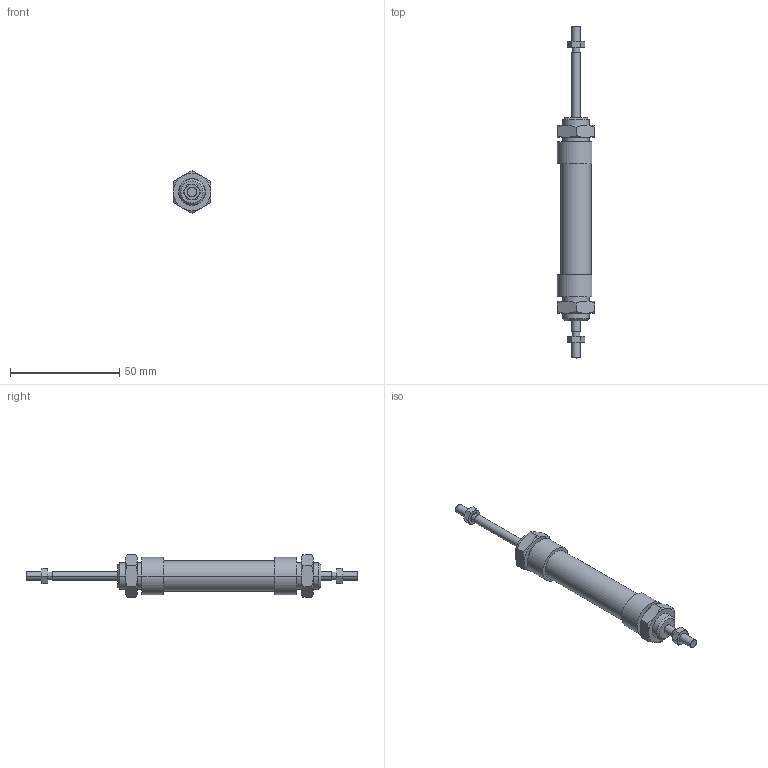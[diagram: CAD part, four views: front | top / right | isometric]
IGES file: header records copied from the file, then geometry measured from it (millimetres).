
Global section: file name: No Iges File Name specified; native system: AutoDesk Inventor R6.0; preprocessor: AutoDesk Inventor Iges Exporter R6.0; author: No Author specified; organization: No Organization specified; date: 20030403.071932; units: millimetre
Bounding box: 17 x 152 x 19.63 mm (x, y, z)
Volume: 17181.4 mm3; surface area: 9755.5 mm2
Topology: 6 solids, 6 shells, 170 faces, 356 edges, 208 vertices
Faces by surface type: cone 68, plane 46, bspline 30, cylinder 20, revolution 6
